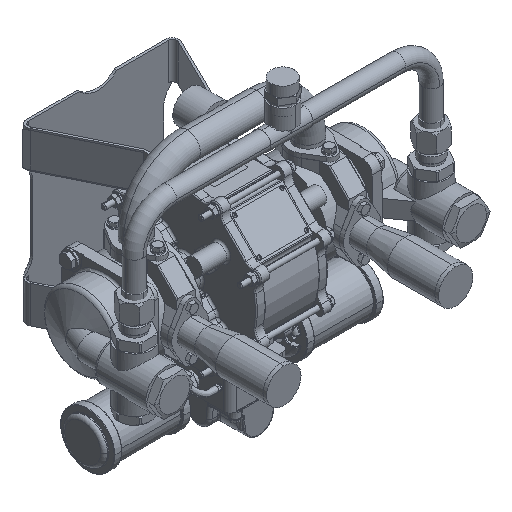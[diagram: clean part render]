
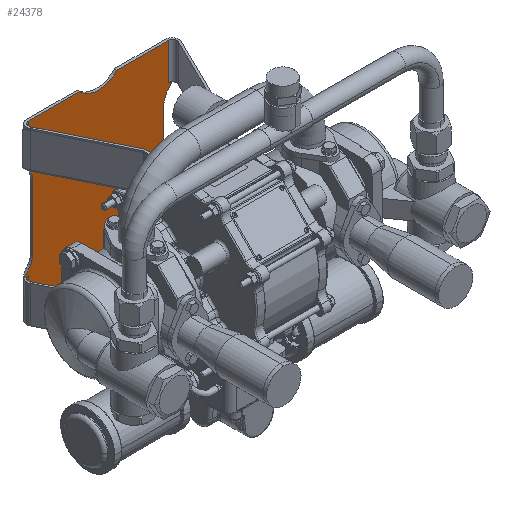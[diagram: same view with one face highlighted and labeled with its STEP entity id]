
A CAD part, isometric view. The second image highlights one B-rep face of the part: STEP entity #24378.
In plain terms, the highlighted planar face has unit normal (0, -1, 0).
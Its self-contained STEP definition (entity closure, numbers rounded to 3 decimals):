
#23242=CARTESIAN_POINT('',(-4.8,7.202,
-1.85));
#23243=DIRECTION('',(0.,1.,0.));
#23244=DIRECTION('',(1.,0.,0.));
#23245=AXIS2_PLACEMENT_3D('',#23242,#23243,#23244);
#23247=CARTESIAN_POINT('',(-4.8,7.202,
1.85));
#23248=DIRECTION('',(0.,-1.,0.));
#23249=DIRECTION('',(1.,0.,0.));
#23250=AXIS2_PLACEMENT_3D('',#23247,#23248,#23249);
#23252=DIRECTION('',(-0.64,0.,0.769));
#23253=VECTOR('',#23252,0.603);
#23254=CARTESIAN_POINT('',(-3.965,7.202,
2.371));
#23255=LINE('',#23254,#23253);
#23256=DIRECTION('',(1.,0.,0.));
#23257=VECTOR('',#23256,0.281);
#23258=CARTESIAN_POINT('',(-4.35,7.202,
2.835));
#23259=LINE('',#23258,#23257);
#23260=DIRECTION('',(0.,0.,1.));
#23261=VECTOR('',#23260,2.146);
#23262=CARTESIAN_POINT('',(-4.069,7.202,
2.835));
#23263=LINE('',#23262,#23261);
#23264=DIRECTION('',(1.,0.,0.));
#23265=VECTOR('',#23264,2.978);
#23266=CARTESIAN_POINT('',(-4.069,7.202,
4.98));
#23267=LINE('',#23266,#23265);
#23268=CARTESIAN_POINT('',(0.,7.202,6.004));
#23269=DIRECTION('',(0.,-1.,0.));
#23270=DIRECTION('',(-0.729,0.,-0.684));
#23271=AXIS2_PLACEMENT_3D('',#23268,#23269,#23270);
#23273=DIRECTION('',(1.,0.,0.));
#23274=VECTOR('',#23273,2.978);
#23275=CARTESIAN_POINT('',(1.091,7.202,4.98));
#23276=LINE('',#23275,#23274);
#23277=DIRECTION('',(0.,0.,-1.));
#23278=VECTOR('',#23277,2.146);
#23279=CARTESIAN_POINT('',(4.069,7.202,4.98));
#23280=LINE('',#23279,#23278);
#23281=DIRECTION('',(1.,0.,0.));
#23282=VECTOR('',#23281,0.281);
#23283=CARTESIAN_POINT('',(4.069,7.202,2.835));
#23284=LINE('',#23283,#23282);
#23285=DIRECTION('',(0.64,0.,0.769));
#23286=VECTOR('',#23285,0.603);
#23287=CARTESIAN_POINT('',(3.965,7.202,2.371));
#23288=LINE('',#23287,#23286);
#23289=CARTESIAN_POINT('',(4.8,7.202,1.85));
#23290=DIRECTION('',(0.,1.,0.));
#23291=DIRECTION('',(-1.,0.,0.));
#23292=AXIS2_PLACEMENT_3D('',#23289,#23290,#23291);
#23294=CARTESIAN_POINT('',(4.8,7.202,
-1.85));
#23295=DIRECTION('',(0.,-1.,0.));
#23296=DIRECTION('',(-1.,0.,0.));
#23297=AXIS2_PLACEMENT_3D('',#23294,#23295,#23296);
#23299=DIRECTION('',(0.64,0.,-0.769));
#23300=VECTOR('',#23299,0.603);
#23301=CARTESIAN_POINT('',(3.965,7.202,
-2.371));
#23302=LINE('',#23301,#23300);
#23303=DIRECTION('',(0.,0.,-1.));
#23304=VECTOR('',#23303,2.146);
#23305=CARTESIAN_POINT('',(4.069,7.202,
-2.835));
#23306=LINE('',#23305,#23304);
#23307=DIRECTION('',(-1.,0.,0.));
#23308=VECTOR('',#23307,2.978);
#23309=CARTESIAN_POINT('',(4.069,7.202,
-4.98));
#23310=LINE('',#23309,#23308);
#23311=CARTESIAN_POINT('',(0.,7.202,-6.004));
#23312=DIRECTION('',(0.,1.,0.));
#23313=DIRECTION('',(-0.729,0.,0.684));
#23314=AXIS2_PLACEMENT_3D('',#23311,#23312,#23313);
#23316=DIRECTION('',(-1.,0.,0.));
#23317=VECTOR('',#23316,2.978);
#23318=CARTESIAN_POINT('',(-1.091,7.202,
-4.98));
#23319=LINE('',#23318,#23317);
#23320=DIRECTION('',(0.,0.,1.));
#23321=VECTOR('',#23320,2.146);
#23322=CARTESIAN_POINT('',(-4.069,7.202,
-4.98));
#23323=LINE('',#23322,#23321);
#23324=DIRECTION('',(-0.64,0.,-0.769));
#23325=VECTOR('',#23324,0.603);
#23326=CARTESIAN_POINT('',(-3.965,7.202,
-2.371));
#23327=LINE('',#23326,#23325);
#23332=DIRECTION('',(0.,0.,-1.));
#23333=VECTOR('',#23332,3.701);
#23334=CARTESIAN_POINT('',(-3.816,7.202,
1.85));
#23335=LINE('',#23334,#23333);
#23540=DIRECTION('',(1.,0.,0.));
#23541=VECTOR('',#23540,0.281);
#23542=CARTESIAN_POINT('',(4.069,7.202,
-2.835));
#23543=LINE('',#23542,#23541);
#23544=DIRECTION('',(1.,0.,0.));
#23545=VECTOR('',#23544,0.281);
#23546=CARTESIAN_POINT('',(-4.35,7.202,
-2.835));
#23547=LINE('',#23546,#23545);
#23592=DIRECTION('',(0.,0.,1.));
#23593=VECTOR('',#23592,3.701);
#23594=CARTESIAN_POINT('',(3.816,7.202,
-1.85));
#23595=LINE('',#23594,#23593);
#24016=CARTESIAN_POINT('',(-4.069,7.202,
-4.98));
#24017=VERTEX_POINT('',#24016);
#24018=CARTESIAN_POINT('',(-4.069,7.202,
4.98));
#24019=VERTEX_POINT('',#24018);
#24032=CARTESIAN_POINT('',(4.069,7.202,4.98));
#24034=VERTEX_POINT('',#24032);
#24037=CARTESIAN_POINT('',(4.069,7.202,
-4.98));
#24039=VERTEX_POINT('',#24037);
#24072=CARTESIAN_POINT('',(-4.069,7.202,
-2.835));
#24073=VERTEX_POINT('',#24072);
#24074=CARTESIAN_POINT('',(-4.069,7.202,
2.835));
#24075=VERTEX_POINT('',#24074);
#24092=CARTESIAN_POINT('',(4.069,7.202,
-2.835));
#24093=VERTEX_POINT('',#24092);
#24094=CARTESIAN_POINT('',(4.069,7.202,2.835));
#24095=VERTEX_POINT('',#24094);
#24192=CARTESIAN_POINT('',(-1.091,7.202,
-4.98));
#24194=VERTEX_POINT('',#24192);
#24196=CARTESIAN_POINT('',(1.091,7.202,
-4.98));
#24198=VERTEX_POINT('',#24196);
#24201=CARTESIAN_POINT('',(-1.091,7.202,
4.98));
#24203=VERTEX_POINT('',#24201);
#24205=CARTESIAN_POINT('',(1.091,7.202,4.98));
#24207=VERTEX_POINT('',#24205);
#24214=CARTESIAN_POINT('',(3.816,7.202,1.85));
#24215=CARTESIAN_POINT('',(3.965,7.202,2.371));
#24216=VERTEX_POINT('',#24214);
#24217=VERTEX_POINT('',#24215);
#24218=CARTESIAN_POINT('',(4.35,7.202,2.835));
#24219=VERTEX_POINT('',#24218);
#24221=CARTESIAN_POINT('',(3.816,7.202,
-1.85));
#24223=VERTEX_POINT('',#24221);
#24225=CARTESIAN_POINT('',(3.965,7.202,
-2.371));
#24227=VERTEX_POINT('',#24225);
#24230=CARTESIAN_POINT('',(4.35,7.202,
-2.835));
#24231=VERTEX_POINT('',#24230);
#24233=CARTESIAN_POINT('',(-3.816,7.202,
1.85));
#24235=VERTEX_POINT('',#24233);
#24237=CARTESIAN_POINT('',(-3.965,7.202,
2.371));
#24239=VERTEX_POINT('',#24237);
#24241=CARTESIAN_POINT('',(-3.816,7.202,
-1.85));
#24243=VERTEX_POINT('',#24241);
#24245=CARTESIAN_POINT('',(-3.965,7.202,
-2.371));
#24247=VERTEX_POINT('',#24245);
#24250=CARTESIAN_POINT('',(-4.35,7.202,
2.835));
#24251=VERTEX_POINT('',#24250);
#24254=CARTESIAN_POINT('',(-4.35,7.202,
-2.835));
#24255=VERTEX_POINT('',#24254);
#24326=CARTESIAN_POINT('',(-4.471,7.202,
-4.98));
#24327=DIRECTION('',(0.,-1.,0.));
#24328=DIRECTION('',(1.,0.,0.));
#24329=AXIS2_PLACEMENT_3D('',#24326,#24327,#24328);
#24330=PLANE('',#24329);
#24332=ORIENTED_EDGE('',*,*,#24331,.F.);
#24334=ORIENTED_EDGE('',*,*,#24333,.F.);
#24336=ORIENTED_EDGE('',*,*,#24335,.T.);
#24338=ORIENTED_EDGE('',*,*,#24337,.T.);
#24340=ORIENTED_EDGE('',*,*,#24339,.T.);
#24342=ORIENTED_EDGE('',*,*,#24341,.T.);
#24344=ORIENTED_EDGE('',*,*,#24343,.T.);
#24346=ORIENTED_EDGE('',*,*,#24345,.T.);
#24348=ORIENTED_EDGE('',*,*,#24347,.T.);
#24350=ORIENTED_EDGE('',*,*,#24349,.T.);
#24352=ORIENTED_EDGE('',*,*,#24351,.T.);
#24354=ORIENTED_EDGE('',*,*,#24353,.F.);
#24356=ORIENTED_EDGE('',*,*,#24355,.F.);
#24358=ORIENTED_EDGE('',*,*,#24357,.F.);
#24360=ORIENTED_EDGE('',*,*,#24359,.T.);
#24362=ORIENTED_EDGE('',*,*,#24361,.T.);
#24364=ORIENTED_EDGE('',*,*,#24363,.F.);
#24366=ORIENTED_EDGE('',*,*,#24365,.T.);
#24367=ORIENTED_EDGE('',*,*,#24291,.T.);
#24368=ORIENTED_EDGE('',*,*,#24317,.F.);
#24369=ORIENTED_EDGE('',*,*,#24279,.T.);
#24371=ORIENTED_EDGE('',*,*,#24370,.T.);
#24373=ORIENTED_EDGE('',*,*,#24372,.F.);
#24375=ORIENTED_EDGE('',*,*,#24374,.F.);
#24376=EDGE_LOOP('',(#24332,#24334,#24336,#24338,#24340,#24342,#24344,#24346,
#24348,#24350,#24352,#24354,#24356,#24358,#24360,#24362,#24364,#24366,#24367,
#24368,#24369,#24371,#24373,#24375));
#24377=FACE_OUTER_BOUND('',#24376,.F.);
#24378=ADVANCED_FACE('',(#24377),#24330,.T.);
#23246=CIRCLE('',#23245,0.984);
#23251=CIRCLE('',#23250,0.984);
#23272=CIRCLE('',#23271,1.496);
#23293=CIRCLE('',#23292,0.984);
#23298=CIRCLE('',#23297,0.984);
#23315=CIRCLE('',#23314,1.496);
#24279=EDGE_CURVE('',#24194,#24017,#23319,.T.);
#24291=EDGE_CURVE('',#24039,#24198,#23310,.T.);
#24317=EDGE_CURVE('',#24194,#24198,#23315,.T.);
#24331=EDGE_CURVE('',#24243,#24247,#23246,.T.);
#24333=EDGE_CURVE('',#24235,#24243,#23335,.T.);
#24335=EDGE_CURVE('',#24235,#24239,#23251,.T.);
#24337=EDGE_CURVE('',#24239,#24251,#23255,.T.);
#24339=EDGE_CURVE('',#24251,#24075,#23259,.T.);
#24341=EDGE_CURVE('',#24075,#24019,#23263,.T.);
#24343=EDGE_CURVE('',#24019,#24203,#23267,.T.);
#24345=EDGE_CURVE('',#24203,#24207,#23272,.T.);
#24347=EDGE_CURVE('',#24207,#24034,#23276,.T.);
#24349=EDGE_CURVE('',#24034,#24095,#23280,.T.);
#24351=EDGE_CURVE('',#24095,#24219,#23284,.T.);
#24353=EDGE_CURVE('',#24217,#24219,#23288,.T.);
#24355=EDGE_CURVE('',#24216,#24217,#23293,.T.);
#24357=EDGE_CURVE('',#24223,#24216,#23595,.T.);
#24359=EDGE_CURVE('',#24223,#24227,#23298,.T.);
#24361=EDGE_CURVE('',#24227,#24231,#23302,.T.);
#24363=EDGE_CURVE('',#24093,#24231,#23543,.T.);
#24365=EDGE_CURVE('',#24093,#24039,#23306,.T.);
#24370=EDGE_CURVE('',#24017,#24073,#23323,.T.);
#24372=EDGE_CURVE('',#24255,#24073,#23547,.T.);
#24374=EDGE_CURVE('',#24247,#24255,#23327,.T.);
